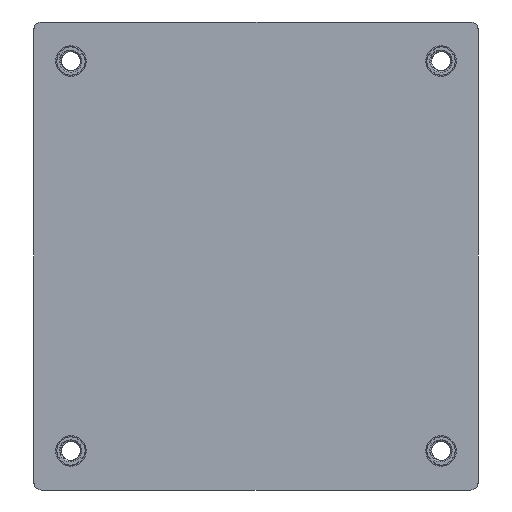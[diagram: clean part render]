
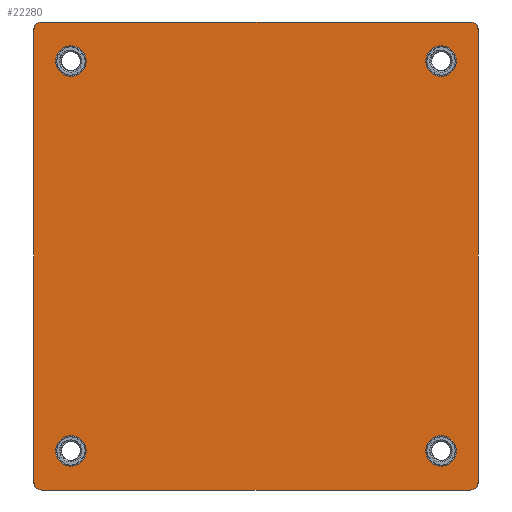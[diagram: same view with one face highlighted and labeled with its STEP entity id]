
A CAD part, front view. The second image highlights one B-rep face of the part: STEP entity #22280.
In plain terms, the highlighted planar face has unit normal (0, -1, 0).
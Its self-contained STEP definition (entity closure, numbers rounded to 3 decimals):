
#397 = DIRECTION ( 'NONE',  ( 0., 0., 1. ) ) ;
#519 = CARTESIAN_POINT ( 'NONE',  ( 24.13, -1.5, 25.4 ) ) ;
#643 = CARTESIAN_POINT ( 'NONE',  ( -28.95, -1.5, -29.5 ) ) ;
#1012 = AXIS2_PLACEMENT_3D ( 'NONE', #16962, #1084, #1223 ) ;
#1084 = DIRECTION ( 'NONE',  ( 0., -1., 0. ) ) ;
#1223 = DIRECTION ( 'NONE',  ( 0., 0., 1. ) ) ;
#1586 = FACE_BOUND ( 'NONE', #13535, .T. ) ;
#1590 = CARTESIAN_POINT ( 'NONE',  ( -28.95, -1.5, 29.5 ) ) ;
#1744 = EDGE_LOOP ( 'NONE', ( #3370, #16788, #24083, #16009, #19467, #22116, #20100, #20304 ) ) ;
#1976 = CIRCLE ( 'NONE', #7134, 1. ) ;
#1984 = CARTESIAN_POINT ( 'NONE',  ( -27.95, -1.5, -30.5 ) ) ;
#2078 = DIRECTION ( 'NONE',  ( 0., 0., 1. ) ) ;
#2537 = DIRECTION ( 'NONE',  ( 0., 1., 0. ) ) ;
#2706 = CARTESIAN_POINT ( 'NONE',  ( -24.13, -1.5, -25.4 ) ) ;
#2822 = ORIENTED_EDGE ( 'NONE', *, *, #17063, .T. ) ;
#2937 = EDGE_CURVE ( 'NONE', #11648, #22449, #20998, .T. ) ;
#3093 = AXIS2_PLACEMENT_3D ( 'NONE', #2706, #20327, #397 ) ;
#3197 = AXIS2_PLACEMENT_3D ( 'NONE', #519, #2537, #9335 ) ;
#3322 = DIRECTION ( 'NONE',  ( 0., 0., 1. ) ) ;
#3370 = ORIENTED_EDGE ( 'NONE', *, *, #25424, .F. ) ;
#3604 = FACE_BOUND ( 'NONE', #18721, .T. ) ;
#3995 = CARTESIAN_POINT ( 'NONE',  ( -24.13, -1.5, 27.4 ) ) ;
#5359 = CARTESIAN_POINT ( 'NONE',  ( -28.95, -1.5, 30.5 ) ) ;
#5609 = ORIENTED_EDGE ( 'NONE', *, *, #15712, .T. ) ;
#5961 = CARTESIAN_POINT ( 'NONE',  ( -28.95, -1.5, -30.5 ) ) ;
#6076 = CARTESIAN_POINT ( 'NONE',  ( -28.95, -1.5, -30.5 ) ) ;
#6410 = VERTEX_POINT ( 'NONE', #10698 ) ;
#7008 = CARTESIAN_POINT ( 'NONE',  ( 27.95, -1.5, -29.5 ) ) ;
#7134 = AXIS2_PLACEMENT_3D ( 'NONE', #12887, #21672, #19493 ) ;
#7144 = VECTOR ( 'NONE', #24811, 1000. ) ;
#7239 = AXIS2_PLACEMENT_3D ( 'NONE', #10208, #7476, #8039 ) ;
#7292 = DIRECTION ( 'NONE',  ( 0., -1., 0. ) ) ;
#7476 = DIRECTION ( 'NONE',  ( 0., -1., 0. ) ) ;
#8039 = DIRECTION ( 'NONE',  ( 0., 0., 1. ) ) ;
#8102 = FACE_OUTER_BOUND ( 'NONE', #1744, .T. ) ;
#8567 = AXIS2_PLACEMENT_3D ( 'NONE', #7008, #7292, #15676 ) ;
#8623 = VERTEX_POINT ( 'NONE', #20991 ) ;
#9335 = DIRECTION ( 'NONE',  ( 0., 0., 1. ) ) ;
#9490 = CARTESIAN_POINT ( 'NONE',  ( -24.13, -1.5, -23.4 ) ) ;
#9728 = DIRECTION ( 'NONE',  ( 0., 0., 1. ) ) ;
#10026 = CIRCLE ( 'NONE', #3093, 2. ) ;
#10075 = AXIS2_PLACEMENT_3D ( 'NONE', #27739, #20553, #9728 ) ;
#10208 = CARTESIAN_POINT ( 'NONE',  ( -27.95, -1.5, 29.5 ) ) ;
#10276 = DIRECTION ( 'NONE',  ( -1., 0., 0. ) ) ;
#10325 = CARTESIAN_POINT ( 'NONE',  ( 27.95, -1.5, -30.5 ) ) ;
#10414 = FACE_BOUND ( 'NONE', #25536, .T. ) ;
#10623 = CARTESIAN_POINT ( 'NONE',  ( -24.13, -1.5, 25.4 ) ) ;
#10698 = CARTESIAN_POINT ( 'NONE',  ( 27.95, -1.5, 30.5 ) ) ;
#10737 = DIRECTION ( 'NONE',  ( 0., 0., 1. ) ) ;
#10773 = LINE ( 'NONE', #15246, #21840 ) ;
#11648 = VERTEX_POINT ( 'NONE', #10325 ) ;
#12103 = CIRCLE ( 'NONE', #21313, 2. ) ;
#12874 = CIRCLE ( 'NONE', #10075, 2. ) ;
#12887 = CARTESIAN_POINT ( 'NONE',  ( 27.95, -1.5, 29.5 ) ) ;
#13081 = EDGE_CURVE ( 'NONE', #8623, #22449, #20347, .T. ) ;
#13535 = EDGE_LOOP ( 'NONE', ( #2822 ) ) ;
#14221 = CARTESIAN_POINT ( 'NONE',  ( -27.95, -1.5, 30.5 ) ) ;
#14455 = AXIS2_PLACEMENT_3D ( 'NONE', #5359, #21228, #3322 ) ;
#14987 = VERTEX_POINT ( 'NONE', #3995 ) ;
#15133 = CARTESIAN_POINT ( 'NONE',  ( 24.13, -1.5, 27.4 ) ) ;
#15246 = CARTESIAN_POINT ( 'NONE',  ( -28.95, -1.5, 30.5 ) ) ;
#15269 = VERTEX_POINT ( 'NONE', #17440 ) ;
#15395 = EDGE_LOOP ( 'NONE', ( #21679 ) ) ;
#15625 = EDGE_CURVE ( 'NONE', #27101, #24807, #21767, .T. ) ;
#15676 = DIRECTION ( 'NONE',  ( 0., 0., 1. ) ) ;
#15712 = EDGE_CURVE ( 'NONE', #14987, #14987, #12103, .T. ) ;
#16009 = ORIENTED_EDGE ( 'NONE', *, *, #2937, .T. ) ;
#16788 = ORIENTED_EDGE ( 'NONE', *, *, #15625, .T. ) ;
#16962 = CARTESIAN_POINT ( 'NONE',  ( -27.95, -1.5, -29.5 ) ) ;
#17063 = EDGE_CURVE ( 'NONE', #15269, #15269, #12874, .T. ) ;
#17292 = VERTEX_POINT ( 'NONE', #15133 ) ;
#17440 = CARTESIAN_POINT ( 'NONE',  ( 24.13, -1.5, -23.4 ) ) ;
#18306 = EDGE_CURVE ( 'NONE', #17292, #17292, #23476, .T. ) ;
#18721 = EDGE_LOOP ( 'NONE', ( #28348 ) ) ;
#19315 = EDGE_CURVE ( 'NONE', #11648, #24807, #28167, .T. ) ;
#19467 = ORIENTED_EDGE ( 'NONE', *, *, #13081, .F. ) ;
#19493 = DIRECTION ( 'NONE',  ( 0., 0., 1. ) ) ;
#19668 = CIRCLE ( 'NONE', #7239, 1. ) ;
#19713 = DIRECTION ( 'NONE',  ( 1., 0., 0. ) ) ;
#20100 = ORIENTED_EDGE ( 'NONE', *, *, #22890, .F. ) ;
#20304 = ORIENTED_EDGE ( 'NONE', *, *, #24988, .T. ) ;
#20327 = DIRECTION ( 'NONE',  ( 0., 1., 0. ) ) ;
#20347 = LINE ( 'NONE', #20490, #7144 ) ;
#20490 = CARTESIAN_POINT ( 'NONE',  ( 28.95, -1.5, -30.5 ) ) ;
#20553 = DIRECTION ( 'NONE',  ( 0., 1., 0. ) ) ;
#20991 = CARTESIAN_POINT ( 'NONE',  ( 28.95, -1.5, 29.5 ) ) ;
#20998 = CIRCLE ( 'NONE', #8567, 1. ) ;
#21228 = DIRECTION ( 'NONE',  ( 0., 1., 0. ) ) ;
#21313 = AXIS2_PLACEMENT_3D ( 'NONE', #10623, #24174, #2078 ) ;
#21373 = PLANE ( 'NONE',  #14455 ) ;
#21672 = DIRECTION ( 'NONE',  ( 0., -1., 0. ) ) ;
#21679 = ORIENTED_EDGE ( 'NONE', *, *, #18306, .T. ) ;
#21767 = CIRCLE ( 'NONE', #1012, 1. ) ;
#21840 = VECTOR ( 'NONE', #19713, 1000. ) ;
#21842 = LINE ( 'NONE', #5961, #22908 ) ;
#22116 = ORIENTED_EDGE ( 'NONE', *, *, #24123, .T. ) ;
#22280 = ADVANCED_FACE ( 'NONE', ( #1586, #3604, #27863, #10414, #8102 ), #21373, .F. ) ;
#22327 = VERTEX_POINT ( 'NONE', #9490 ) ;
#22449 = VERTEX_POINT ( 'NONE', #26418 ) ;
#22890 = EDGE_CURVE ( 'NONE', #27313, #6410, #10773, .T. ) ;
#22908 = VECTOR ( 'NONE', #10737, 1000. ) ;
#23476 = CIRCLE ( 'NONE', #3197, 2. ) ;
#23865 = VERTEX_POINT ( 'NONE', #1590 ) ;
#23918 = VECTOR ( 'NONE', #10276, 1000. ) ;
#24083 = ORIENTED_EDGE ( 'NONE', *, *, #19315, .F. ) ;
#24123 = EDGE_CURVE ( 'NONE', #8623, #6410, #1976, .T. ) ;
#24174 = DIRECTION ( 'NONE',  ( 0., 1., 0. ) ) ;
#24807 = VERTEX_POINT ( 'NONE', #1984 ) ;
#24811 = DIRECTION ( 'NONE',  ( 0., 0., -1. ) ) ;
#24988 = EDGE_CURVE ( 'NONE', #27313, #23865, #19668, .T. ) ;
#25424 = EDGE_CURVE ( 'NONE', #27101, #23865, #21842, .T. ) ;
#25536 = EDGE_LOOP ( 'NONE', ( #5609 ) ) ;
#25864 = EDGE_CURVE ( 'NONE', #22327, #22327, #10026, .T. ) ;
#26418 = CARTESIAN_POINT ( 'NONE',  ( 28.95, -1.5, -29.5 ) ) ;
#27101 = VERTEX_POINT ( 'NONE', #643 ) ;
#27313 = VERTEX_POINT ( 'NONE', #14221 ) ;
#27739 = CARTESIAN_POINT ( 'NONE',  ( 24.13, -1.5, -25.4 ) ) ;
#27863 = FACE_BOUND ( 'NONE', #15395, .T. ) ;
#28167 = LINE ( 'NONE', #6076, #23918 ) ;
#28348 = ORIENTED_EDGE ( 'NONE', *, *, #25864, .T. ) ;
